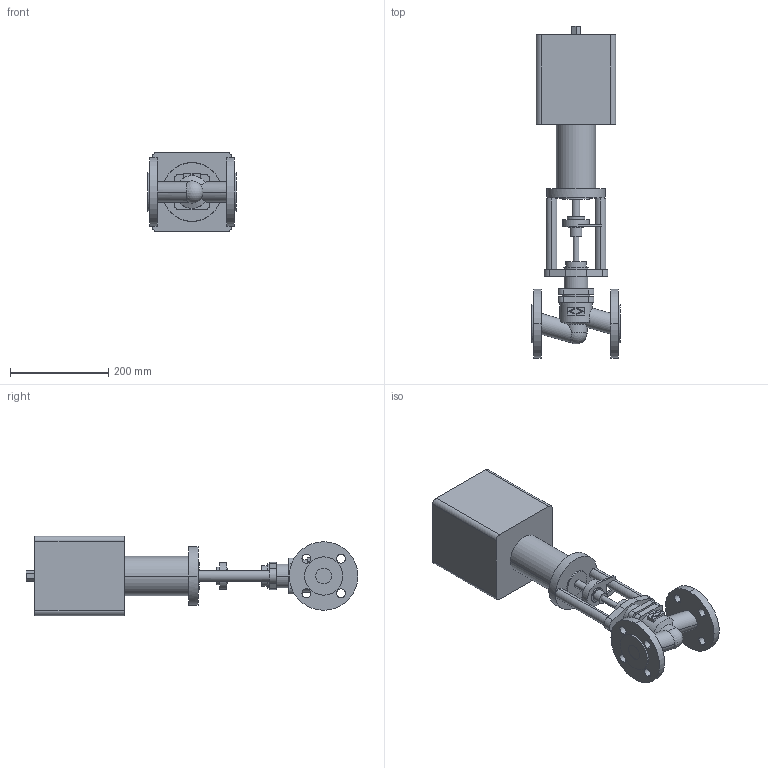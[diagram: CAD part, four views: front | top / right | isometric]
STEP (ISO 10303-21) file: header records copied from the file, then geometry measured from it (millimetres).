
FILE_DESCRIPTION( ( '' ), '1' );
FILE_NAME( 'F:/DE-SHS/TB/OR/04-Sonstiges/daten/files_3d/440-FR2.2/440-PN25-FR2_2/c000004522.stp', '2014-11-06T10:20:34', ( '' ), ( '' ), ' ', ' ', ' ' );
FILE_SCHEMA( ( 'CONFIG_CONTROL_DESIGN' ) );
Length unit declared in the file: millimetre
Products named in the file (2): 1; 2
Bounding box: 180 x 677.5 x 162 mm (x, y, z)
Volume: 6935821.6 mm3; surface area: 397760.6 mm2
Topology: 2 solids, 2 shells, 162 faces, 395 edges, 261 vertices
Faces by surface type: cylinder 82, plane 77, cone 2, sphere 1
Entity records: 5289 total; most frequent: CARTESIAN_POINT 1206, DIRECTION 883, ORIENTED_EDGE 786, EDGE_CURVE 393, AXIS2_PLACEMENT_3D 340, VERTEX_POINT 261, EDGE_LOOP 204, LINE 203
